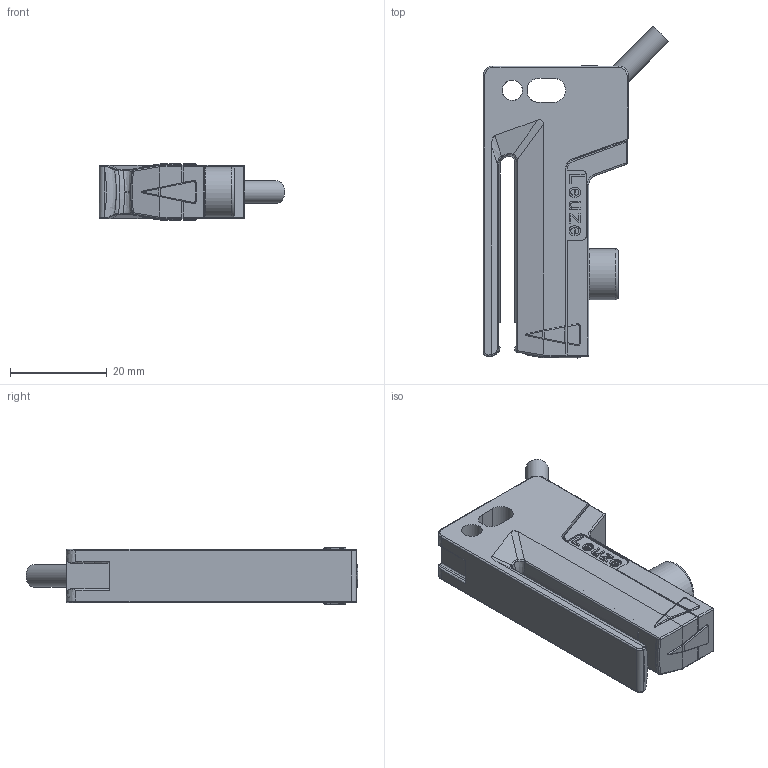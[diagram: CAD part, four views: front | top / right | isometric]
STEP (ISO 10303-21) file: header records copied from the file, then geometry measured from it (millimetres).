
FILE_DESCRIPTION((''),'2;1');
FILE_NAME('E:\ideas_PC1350\jschwi\GS61_Kabel_raendel.stp', '2009-10-01T08:36:21',('User'),('SDRC'),'I-DEAS Master Series','UNIX','Yes');
FILE_SCHEMA(('CONFIG_CONTROL_DESIGN', 'GEOMETRIC_VALIDATION_PROPERTIES_MIM','SHAPE_APPEARANCE_LAYER_MIM'));
Length unit declared in the file: millimetre
Bounding box: 38.32 x 68.59 x 11.6 mm (x, y, z)
Volume: 12947.6 mm3; surface area: 7604.5 mm2
Topology: 1 solids, 3 shells, 446 faces, 1148 edges, 730 vertices
Faces by surface type: bspline 446
Entity records: 14918 total; most frequent: CARTESIAN_POINT 7299, ORIENTED_EDGE 2268, EDGE_CURVE 1134, OVER_RIDING_STYLED_ITEM 729, VERTEX_POINT 719, B_SPLINE_CURVE_WITH_KNOTS 628, EDGE_LOOP 477, FACE_OUTER_BOUND 446
